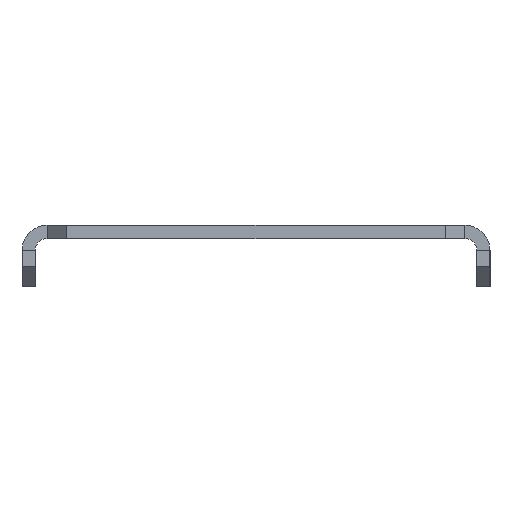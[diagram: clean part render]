
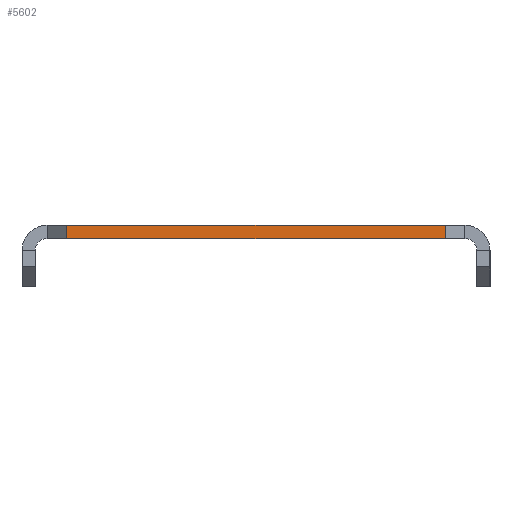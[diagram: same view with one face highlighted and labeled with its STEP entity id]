
A CAD part, left-side view. The second image highlights one B-rep face of the part: STEP entity #5602.
In plain terms, the highlighted planar face has unit normal (-1, 0, 0).
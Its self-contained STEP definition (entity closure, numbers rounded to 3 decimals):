
#2886 = DIRECTION ( 'NONE',  ( 0., 0., -1. ) ) ;
#3018 = VERTEX_POINT ( 'NONE', #19539 ) ;
#3700 = VECTOR ( 'NONE', #30961, 1000. ) ;
#3767 = CARTESIAN_POINT ( 'NONE',  ( -587.5, 31.655, 0. ) ) ;
#5232 = ORIENTED_EDGE ( 'NONE', *, *, #26035, .T. ) ;
#5602 = ADVANCED_FACE ( 'NONE', ( #9062 ), #27617, .F. ) ;
#7372 = CARTESIAN_POINT ( 'NONE',  ( -587.5, 28.655, 2. ) ) ;
#8062 = LINE ( 'NONE', #3767, #33055 ) ;
#9042 = LINE ( 'NONE', #12571, #3700 ) ;
#9062 = FACE_OUTER_BOUND ( 'NONE', #19392, .T. ) ;
#11239 = VERTEX_POINT ( 'NONE', #32461 ) ;
#11981 = DIRECTION ( 'NONE',  ( 0., 1., 0. ) ) ;
#12421 = VERTEX_POINT ( 'NONE', #7372 ) ;
#12571 = CARTESIAN_POINT ( 'NONE',  ( -587.5, -28.655, 0. ) ) ;
#12882 = ORIENTED_EDGE ( 'NONE', *, *, #13131, .T. ) ;
#13131 = EDGE_CURVE ( 'NONE', #11239, #30857, #9042, .T. ) ;
#13818 = CARTESIAN_POINT ( 'NONE',  ( -587.5, 31.655, 2. ) ) ;
#15909 = DIRECTION ( 'NONE',  ( 1., 0., 0. ) ) ;
#16880 = LINE ( 'NONE', #33064, #32089 ) ;
#17535 = EDGE_CURVE ( 'NONE', #11239, #3018, #8062, .T. ) ;
#17815 = ORIENTED_EDGE ( 'NONE', *, *, #17535, .F. ) ;
#19392 = EDGE_LOOP ( 'NONE', ( #17815, #12882, #25277, #5232 ) ) ;
#19539 = CARTESIAN_POINT ( 'NONE',  ( -587.5, 28.655, 0. ) ) ;
#19725 = LINE ( 'NONE', #13818, #32875 ) ;
#20317 = EDGE_CURVE ( 'NONE', #30857, #12421, #19725, .T. ) ;
#22863 = DIRECTION ( 'NONE',  ( 0., 0., -1. ) ) ;
#24232 = CARTESIAN_POINT ( 'NONE',  ( -587.5, -28.655, 2. ) ) ;
#25277 = ORIENTED_EDGE ( 'NONE', *, *, #20317, .T. ) ;
#26035 = EDGE_CURVE ( 'NONE', #12421, #3018, #16880, .T. ) ;
#27138 = DIRECTION ( 'NONE',  ( 0., 1., 0. ) ) ;
#27503 = CARTESIAN_POINT ( 'NONE',  ( -587.5, 31.655, 0. ) ) ;
#27617 = PLANE ( 'NONE',  #28417 ) ;
#28417 = AXIS2_PLACEMENT_3D ( 'NONE', #27503, #15909, #2886 ) ;
#30857 = VERTEX_POINT ( 'NONE', #24232 ) ;
#30961 = DIRECTION ( 'NONE',  ( 0., 0., 1. ) ) ;
#32089 = VECTOR ( 'NONE', #22863, 1000. ) ;
#32461 = CARTESIAN_POINT ( 'NONE',  ( -587.5, -28.655, 0. ) ) ;
#32875 = VECTOR ( 'NONE', #27138, 1000. ) ;
#33055 = VECTOR ( 'NONE', #11981, 1000. ) ;
#33064 = CARTESIAN_POINT ( 'NONE',  ( -587.5, 28.655, 0. ) ) ;
